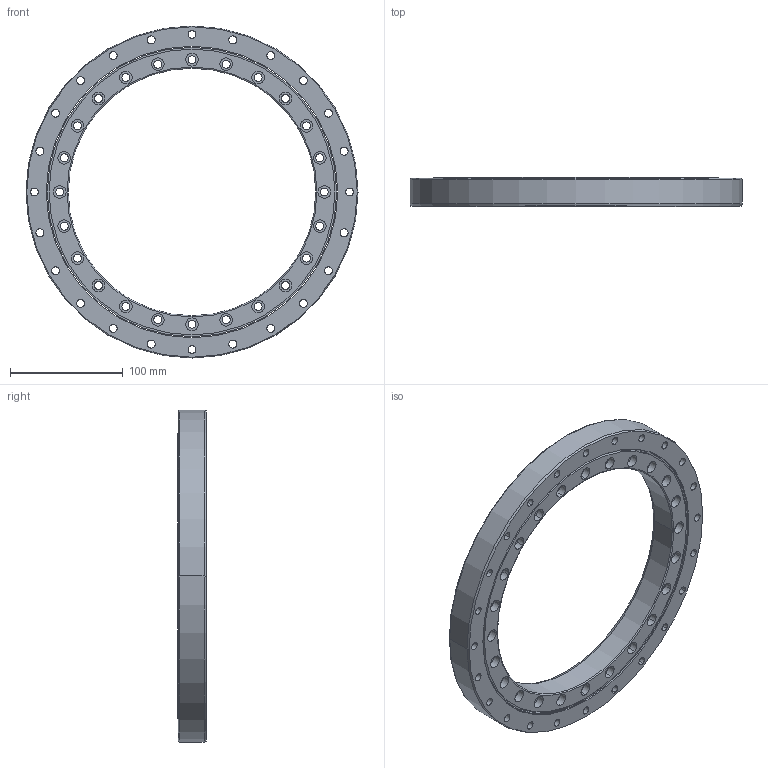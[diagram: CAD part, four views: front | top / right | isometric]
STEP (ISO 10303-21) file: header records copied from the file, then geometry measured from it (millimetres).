
FILE_DESCRIPTION((''),'2;1');
FILE_NAME('XSU080258','2015-07-02T',('Administrator'),(''),'PRO/ENGINEER BY PARAMETRIC TECHNOLOGY CORPORATION, 2010180','PRO/ENGINEER BY PARAMETRIC TECHNOLOGY CORPORATION, 2010180','');
FILE_SCHEMA(('AUTOMOTIVE_DESIGN_CC2 { 1 2 10303 214 -1 1 5 2 }'));
Length unit declared in the file: millimetre
Products named in the file (1): XSU080258
Bounding box: 295 x 25.4 x 295 mm (x, y, z)
Volume: 606192.2 mm3; surface area: 181314.9 mm2
Topology: 2 solids, 2 shells, 290 faces, 676 edges, 444 vertices
Faces by surface type: cylinder 216, plane 58, cone 12, torus 4
Entity records: 8773 total; most frequent: DIRECTION 1704, CARTESIAN_POINT 1410, ORIENTED_EDGE 1352, AXIS2_PLACEMENT_3D 738, EDGE_CURVE 676, CIRCLE 448, VERTEX_POINT 444, EDGE_LOOP 444
